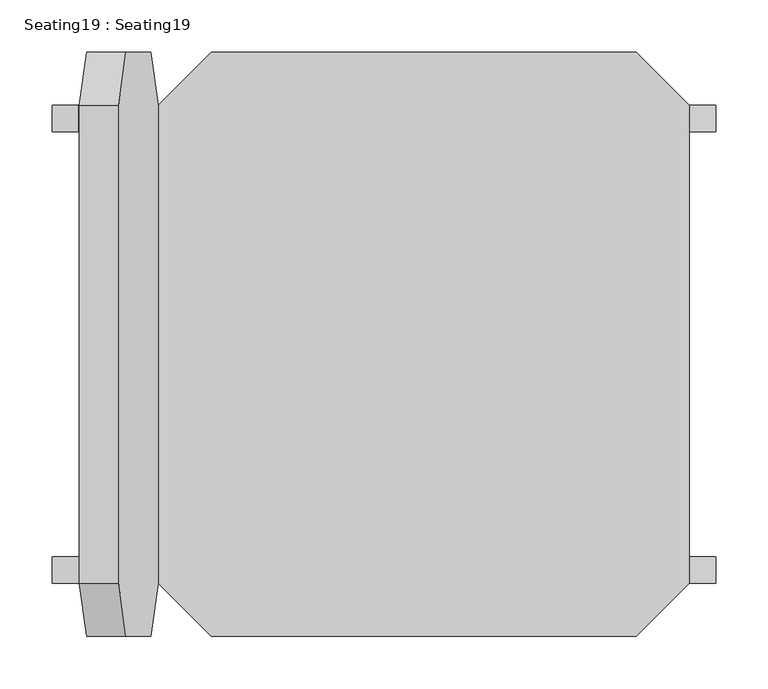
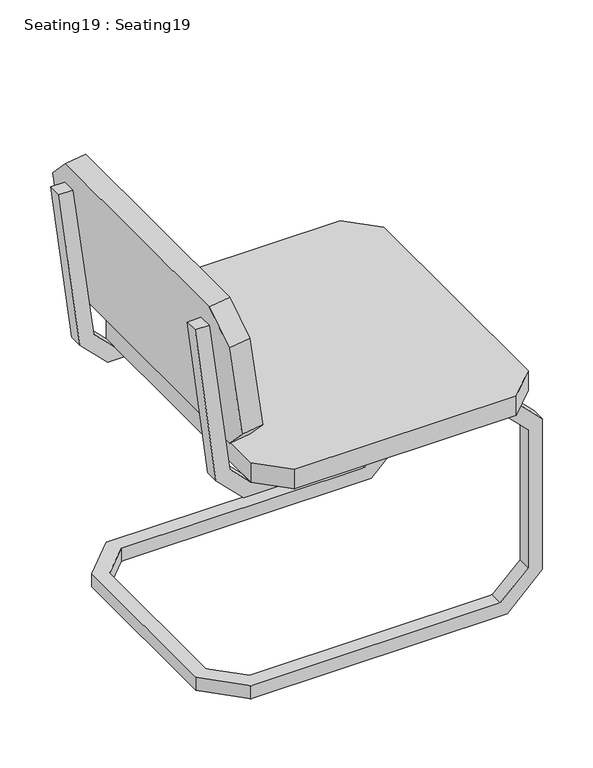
"""IFC4 building model written with IfcOpenShell, lengths in millimetres: furniture geometry, Seating19 : Seating19."""

from ifc_helpers import new_model, si_unit, origin, place, context, project, spatial, triangles, source, transform, mapped, element, save


def seating19_seating19_12e8b1e3(model_context):
    return source(origin(), model_context, "Body", "Tessellation", [
        triangles([(-507.9999879, 228.6000182, 25.4000212), (-507.9999879, 228.6000182, 2e-05), (-50.8000015, 228.6000182, 25.4000212), (-38.1, 228.6000182, 2e-05), (0.0, 228.6000182, 76.2000182), (25.4000008, 228.6000182, 63.5000167), (0.0, 228.6, 342.9000363), (25.4000008, 228.6, 355.6000242), (-50.8000015, 228.6, 393.7000242), (-38.1, 228.6, 419.1), (-507.9999879, 228.6, 419.1), (-520.7000121, 228.6, 393.7000242), (-546.0999879, 228.6, 457.2), (-571.5, 228.6, 444.5000121), (-584.1999879, 228.5999818, 749.2999758), (-609.6, 228.5999818, 749.2999758), (-584.1999879, 203.1999697, 749.2999758), (-546.0999879, 203.1999879, 457.2), (-609.6, 203.1999697, 749.2999758), (-571.5, 203.1999879, 444.5000121), (-507.9999879, 203.2000061, 419.1), (-520.7000121, 203.2000061, 393.7000242), (-50.8000015, 203.2000061, 393.7000242), (-38.1, 203.2000061, 419.1), (0.0, 203.2000061, 342.9000363), (25.4000008, 203.2000061, 355.6000242), (0.0, 203.2000242, 76.2000182), (25.4000008, 203.2000242, 63.5000167), (-50.8000015, 203.2000242, 25.4000189), (-38.1, 203.2000242, 1.78e-05), (-495.3, 203.2000242, 1.78e-05), (-495.3, 203.2000242, 25.4000189), (-571.5, 165.1000424, 25.4000144), (-546.0999879, 152.4000363, 25.4000121), (-571.5, -165.0999697, 25.3999849), (-546.0999879, -152.3999637, 25.3999871), (-571.5, 165.1000424, 1.44e-05), (-571.5, -165.0999697, -1.44e-05), (-546.0999879, -152.3999637, -1.33e-05), (-546.0999879, 152.4000363, 1.33e-05), (0.0, -228.5999818, 76.1999818), (0.0, -203.1999697, 76.1999818), (0.0, -203.2000061, 342.8999637), (0.0, -228.6, 342.8999637), (-50.8000015, -228.5999818, 25.3999803), (-50.8000015, -203.1999697, 25.3999826), (-507.9999879, -228.5999818, 25.3999803), (-495.3, -203.1999697, 25.3999826), (-38.1, -228.5999818, -2e-05), (-38.1, -203.1999697, -1.78e-05), (-495.3, -203.1999697, -1.78e-05), (-507.9999879, -228.5999818, -2e-05), (25.4000008, -228.5999818, 63.4999803), (25.4000008, -203.1999697, 63.4999803), (25.4000008, -228.6, 355.5999879), (25.4000008, -203.2000061, 355.5999879), (-50.8000015, -203.2000061, 393.6999879), (-50.8000015, -228.6, 393.6999879), (-520.7000121, -203.2000061, 393.6999879), (-520.7000121, -228.6, 393.6999879), (-571.5, -203.2000061, 444.5000121), (-571.5, -228.6, 444.5000121), (-609.6, -203.2000242, 749.2999758), (-609.6, -228.6000182, 749.2999758), (-584.1999879, -203.2000242, 749.2999758), (-584.1999879, -228.6000182, 749.2999758), (-38.1, -228.6, 419.1), (-38.1, -203.2000061, 419.1), (-507.9999879, -228.6, 419.1), (-507.9999879, -203.2000061, 419.1), (-546.0999879, -228.6, 457.2), (-546.0999879, -203.2000061, 457.2)], [[1, 3, 2], [4, 2, 3], [5, 6, 3], [4, 3, 6], [7, 8, 5], [6, 5, 8], [9, 8, 7], [8, 9, 10], [11, 9, 12], [9, 11, 10], [11, 14, 13], [14, 11, 12], [13, 16, 15], [16, 13, 14], [17, 19, 18], [20, 18, 19], [18, 20, 21], [22, 21, 20], [22, 23, 21], [24, 21, 23], [25, 26, 23], [24, 23, 26], [27, 26, 25], [26, 27, 28], [29, 28, 27], [28, 29, 30], [31, 29, 32], [29, 31, 30], [17, 18, 15], [13, 15, 18], [18, 11, 13], [11, 18, 21], [21, 24, 11], [10, 11, 24], [24, 8, 10], [8, 24, 26], [19, 17, 16], [15, 16, 17], [16, 20, 19], [20, 16, 14], [14, 12, 20], [22, 20, 12], [12, 23, 22], [23, 12, 9], [23, 7, 25], [7, 23, 9], [26, 28, 8], [6, 8, 28], [28, 4, 6], [4, 28, 30], [30, 31, 4], [2, 4, 31], [32, 29, 1], [3, 1, 29], [29, 5, 3], [5, 29, 27], [27, 25, 5], [7, 5, 25], [33, 34, 1], [32, 1, 34], [35, 36, 33], [34, 33, 36], [37, 39, 38], [39, 37, 40], [2, 40, 37], [40, 2, 31], [32, 34, 31], [40, 31, 34], [34, 39, 40], [39, 34, 36], [2, 33, 1], [33, 2, 37], [37, 38, 33], [35, 33, 38], [41, 43, 42], [43, 41, 44], [45, 41, 46], [42, 46, 41], [47, 46, 48], [46, 47, 45], [49, 51, 50], [51, 49, 52], [53, 49, 54], [50, 54, 49], [55, 54, 56], [54, 55, 53], [43, 44, 57], [58, 57, 44], [59, 57, 60], [58, 60, 57], [61, 60, 62], [60, 61, 59], [63, 61, 64], [62, 64, 61], [64, 65, 63], [65, 64, 66], [67, 55, 68], [56, 68, 55], [69, 68, 70], [68, 69, 67], [71, 69, 72], [70, 72, 69], [66, 72, 65], [72, 66, 71], [48, 46, 51], [50, 51, 46], [42, 54, 46], [50, 46, 54], [43, 56, 42], [54, 42, 56], [57, 56, 43], [56, 57, 68], [70, 57, 59], [57, 70, 68], [70, 61, 72], [61, 70, 59], [72, 63, 65], [63, 72, 61], [66, 64, 71], [62, 71, 64], [71, 62, 69], [60, 69, 62], [60, 58, 69], [67, 69, 58], [44, 55, 58], [67, 58, 55], [41, 55, 44], [55, 41, 53], [45, 53, 41], [53, 45, 49], [52, 45, 47], [45, 52, 49], [47, 35, 52], [38, 52, 35], [51, 36, 48], [36, 51, 39], [38, 39, 52], [51, 52, 39], [47, 36, 35], [36, 47, 48]]),
        triangles([(0.0, 228.6000182, 419.1), (-507.9999879, 228.6000182, 419.1), (-507.9999879, -228.5999818, 419.1), (0.0, -228.5999818, 419.1), (-457.2, 279.4000242, 419.1000363), (-50.8000015, 279.4000242, 419.1000363), (-457.2, -279.3999697, 419.0999637), (-50.8000015, -279.3999697, 419.0999637), (-583.5984984, -228.6000182, 784.8722231), (-576.780528, -279.4000061, 734.5317638), (-552.9178857, -279.4000061, 558.3403381), (-546.0999879, -228.6, 507.9999879), (-576.780528, 279.4000061, 734.5318365), (-583.5984984, 228.5999818, 784.8722231), (-546.0999879, 228.6, 507.9999879), (-552.9178857, 279.4000061, 558.3404471), (-545.8431722, 228.5999818, 789.9856464), (-508.344698, 228.6, 513.1134476), (-545.8431722, -228.6000182, 789.9856464), (-508.344698, -228.6, 513.1134476), (-539.025238, 279.4000061, 739.6453325), (-515.1625957, 279.4000061, 563.4538705), (-539.025238, -279.4000061, 739.6451872), (-515.1625957, -279.4000061, 563.4537978), (-457.2, -279.3999697, 457.1999637), (-507.9999879, -228.5999818, 457.2), (-50.8000015, -279.3999697, 457.1999637), (0.0, -228.5999818, 457.2), (-507.9999879, 228.6000182, 457.2), (-457.2, 279.4000242, 457.2000363), (0.0, 228.6000182, 457.2), (-50.8000015, 279.4000242, 457.2000363)], [[1, 3, 2], [3, 1, 4], [5, 1, 2], [1, 5, 6], [3, 8, 7], [8, 3, 4], [9, 11, 10], [11, 9, 12], [13, 15, 14], [15, 13, 16], [15, 9, 14], [9, 15, 12], [17, 19, 18], [20, 18, 19], [17, 18, 21], [22, 21, 18], [23, 24, 19], [20, 19, 24], [25, 27, 26], [28, 26, 27], [29, 31, 30], [32, 30, 31], [29, 26, 31], [28, 31, 26], [8, 4, 27], [28, 27, 4], [4, 31, 28], [31, 4, 1], [1, 6, 31], [32, 31, 6], [6, 30, 32], [30, 6, 5], [5, 2, 30], [29, 30, 2], [2, 26, 29], [26, 2, 3], [3, 7, 26], [25, 26, 7], [7, 27, 25], [27, 7, 8], [11, 12, 24], [20, 24, 12], [12, 18, 20], [18, 12, 15], [15, 16, 18], [22, 18, 16], [16, 21, 22], [21, 16, 13], [13, 14, 21], [17, 21, 14], [14, 19, 17], [19, 14, 9], [9, 10, 19], [23, 19, 10], [10, 24, 23], [24, 10, 11]]),
    ])


if __name__ == "__main__":
    model = new_model("IFC4")
    model_context = context("Model", 3, world=origin())
    ifc_project = project(units=[si_unit("LENGTHUNIT", "METRE", prefix="MILLI")], contexts=[model_context])
    site = spatial("IfcSite", under=ifc_project)
    building = spatial("IfcBuilding", under=site)
    placement = place(None, origin())
    seating19_seating19_shape = seating19_seating19_12e8b1e3(model_context)
    element("IfcFurniture", 1, ObjectType="Seating19 : Seating19", at=placement, inside=building, context=model_context, shape_type="MappedRepresentation", body=[
        mapped(seating19_seating19_shape, transform((0.0, 0.0, 0.0), x_axis=(1.0, 0.0, 0.0), y_axis=(0.0, 1.0, 0.0), z_axis=(0.0, 0.0, 1.0))),
    ])
    save(model, "model.ifc")
